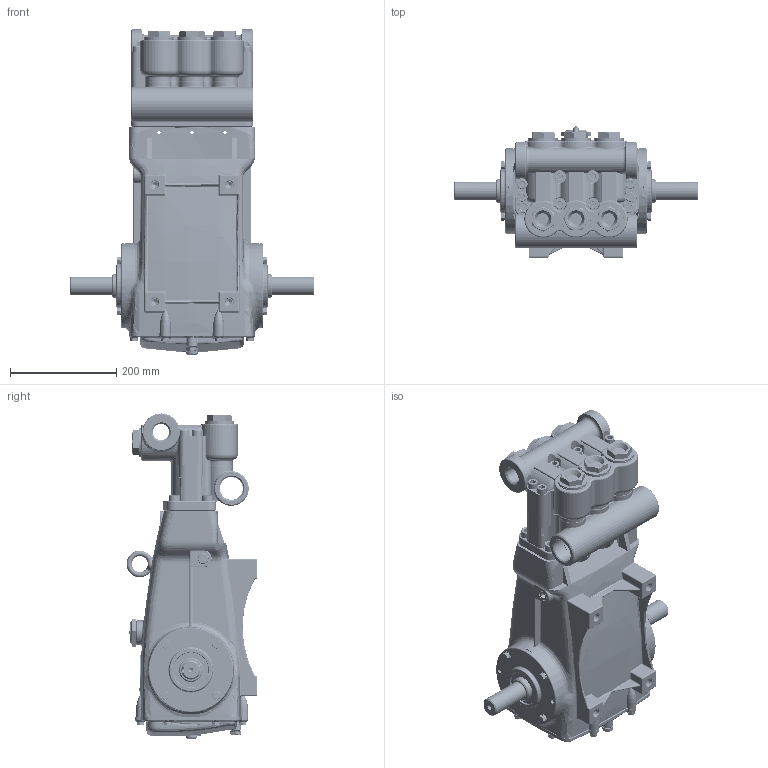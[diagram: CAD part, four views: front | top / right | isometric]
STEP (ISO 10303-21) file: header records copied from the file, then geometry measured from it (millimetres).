
FILE_DESCRIPTION (( 'STEP AP214' ), '1' );
FILE_NAME ('3520.STEP', '2013-03-26T08:47:59', ( '' ), ( '' ), 'SwSTEP 2.0', 'SolidWorks 2013', '' );
FILE_SCHEMA (( 'AUTOMOTIVE_DESIGN' ));
Length unit declared in the file: millimetre
Products named in the file (1): 3520
Bounding box: 460 x 246.1 x 611 mm (x, y, z)
Volume: 8347751.2 mm3; surface area: 1732457.3 mm2
Topology: 3 solids, 50 shells, 5310 faces, 13022 edges, 8045 vertices
Faces by surface type: plane 2045, cylinder 1392, bspline 810, torus 537, cone 486, sphere 40
Entity records: 242343 total; most frequent: CARTESIAN_POINT 78580, ORIENTED_EDGE 25686, DIRECTION 24205, EDGE_CURVE 12843, AXIS2_PLACEMENT_3D 9285, VERTEX_POINT 8033, EDGE_LOOP 5762, VECTOR 5635
